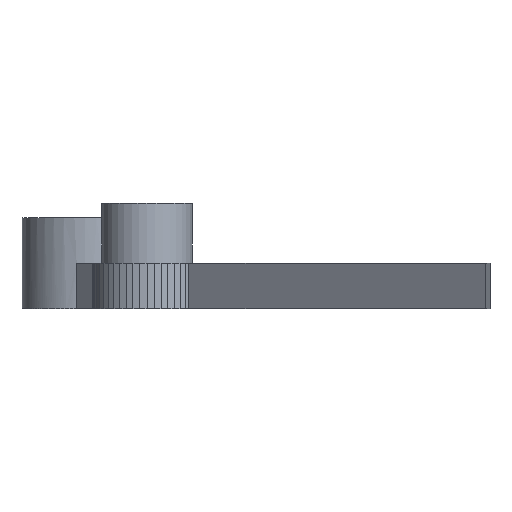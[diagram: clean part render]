
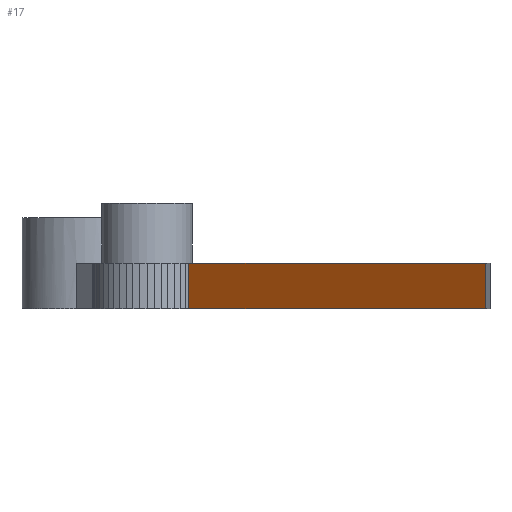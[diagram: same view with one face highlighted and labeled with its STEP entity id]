
A CAD part, left-side view. The second image highlights one B-rep face of the part: STEP entity #17.
In plain terms, the highlighted planar face has unit normal (-0.771, 0.637, 0).
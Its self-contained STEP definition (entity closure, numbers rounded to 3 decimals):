
#17 = ADVANCED_FACE('',(#18),#32,.T.);
#18 = FACE_BOUND('',#19,.T.);
#19 = EDGE_LOOP('',(#20,#55,#83,#111));
#20 = ORIENTED_EDGE('',*,*,#21,.T.);
#21 = EDGE_CURVE('',#22,#24,#26,.T.);
#22 = VERTEX_POINT('',#23);
#23 = CARTESIAN_POINT('',(-43.699,-25.351,0.));
#24 = VERTEX_POINT('',#25);
#25 = CARTESIAN_POINT('',(-43.699,-25.351,5.));
#26 = SURFACE_CURVE('',#27,(#31,#43),.PCURVE_S1.);
#27 = LINE('',#28,#29);
#28 = CARTESIAN_POINT('',(-43.699,-25.351,0.));
#29 = VECTOR('',#30,1.);
#30 = DIRECTION('',(0.,0.,1.));
#31 = PCURVE('',#32,#37);
#32 = PLANE('',#33);
#33 = AXIS2_PLACEMENT_3D('',#34,#35,#36);
#34 = CARTESIAN_POINT('',(-43.699,-25.351,0.));
#35 = DIRECTION('',(-0.771,0.637,0.));
#36 = DIRECTION('',(0.637,0.771,0.));
#37 = DEFINITIONAL_REPRESENTATION('',(#38),#42);
#38 = LINE('',#39,#40);
#39 = CARTESIAN_POINT('',(0.,0.));
#40 = VECTOR('',#41,1.);
#41 = DIRECTION('',(0.,-1.));
#42 = ( GEOMETRIC_REPRESENTATION_CONTEXT(2) 
PARAMETRIC_REPRESENTATION_CONTEXT() REPRESENTATION_CONTEXT('2D SPACE',''
  ) );
#43 = PCURVE('',#44,#49);
#44 = PLANE('',#45);
#45 = AXIS2_PLACEMENT_3D('',#46,#47,#48);
#46 = CARTESIAN_POINT('',(-37.614,-25.835,0.));
#47 = DIRECTION('',(-0.079,-0.997,0.));
#48 = DIRECTION('',(-0.997,0.079,0.));
#49 = DEFINITIONAL_REPRESENTATION('',(#50),#54);
#50 = LINE('',#51,#52);
#51 = CARTESIAN_POINT('',(6.104,0.));
#52 = VECTOR('',#53,1.);
#53 = DIRECTION('',(0.,-1.));
#54 = ( GEOMETRIC_REPRESENTATION_CONTEXT(2) 
PARAMETRIC_REPRESENTATION_CONTEXT() REPRESENTATION_CONTEXT('2D SPACE',''
  ) );
#55 = ORIENTED_EDGE('',*,*,#56,.T.);
#56 = EDGE_CURVE('',#24,#57,#59,.T.);
#57 = VERTEX_POINT('',#58);
#58 = CARTESIAN_POINT('',(-16.65,7.413,5.));
#59 = SURFACE_CURVE('',#60,(#64,#71),.PCURVE_S1.);
#60 = LINE('',#61,#62);
#61 = CARTESIAN_POINT('',(-43.699,-25.351,5.));
#62 = VECTOR('',#63,1.);
#63 = DIRECTION('',(0.637,0.771,0.));
#64 = PCURVE('',#32,#65);
#65 = DEFINITIONAL_REPRESENTATION('',(#66),#70);
#66 = LINE('',#67,#68);
#67 = CARTESIAN_POINT('',(0.,-5.));
#68 = VECTOR('',#69,1.);
#69 = DIRECTION('',(1.,0.));
#70 = ( GEOMETRIC_REPRESENTATION_CONTEXT(2) 
PARAMETRIC_REPRESENTATION_CONTEXT() REPRESENTATION_CONTEXT('2D SPACE',''
  ) );
#71 = PCURVE('',#72,#77);
#72 = PLANE('',#73);
#73 = AXIS2_PLACEMENT_3D('',#74,#75,#76);
#74 = CARTESIAN_POINT('',(-2.412,5.721,5.));
#75 = DIRECTION('',(-0.,-0.,-1.));
#76 = DIRECTION('',(-1.,0.,0.));
#77 = DEFINITIONAL_REPRESENTATION('',(#78),#82);
#78 = LINE('',#79,#80);
#79 = CARTESIAN_POINT('',(41.287,-31.072));
#80 = VECTOR('',#81,1.);
#81 = DIRECTION('',(-0.637,0.771));
#82 = ( GEOMETRIC_REPRESENTATION_CONTEXT(2) 
PARAMETRIC_REPRESENTATION_CONTEXT() REPRESENTATION_CONTEXT('2D SPACE',''
  ) );
#83 = ORIENTED_EDGE('',*,*,#84,.F.);
#84 = EDGE_CURVE('',#85,#57,#87,.T.);
#85 = VERTEX_POINT('',#86);
#86 = CARTESIAN_POINT('',(-16.65,7.413,0.));
#87 = SURFACE_CURVE('',#88,(#92,#99),.PCURVE_S1.);
#88 = LINE('',#89,#90);
#89 = CARTESIAN_POINT('',(-16.65,7.413,0.));
#90 = VECTOR('',#91,1.);
#91 = DIRECTION('',(0.,0.,1.));
#92 = PCURVE('',#32,#93);
#93 = DEFINITIONAL_REPRESENTATION('',(#94),#98);
#94 = LINE('',#95,#96);
#95 = CARTESIAN_POINT('',(42.487,0.));
#96 = VECTOR('',#97,1.);
#97 = DIRECTION('',(0.,-1.));
#98 = ( GEOMETRIC_REPRESENTATION_CONTEXT(2) 
PARAMETRIC_REPRESENTATION_CONTEXT() REPRESENTATION_CONTEXT('2D SPACE',''
  ) );
#99 = PCURVE('',#100,#105);
#100 = PLANE('',#101);
#101 = AXIS2_PLACEMENT_3D('',#102,#103,#104);
#102 = CARTESIAN_POINT('',(-16.65,7.413,0.));
#103 = DIRECTION('',(-0.659,-0.752,0.));
#104 = DIRECTION('',(-0.752,0.659,0.));
#105 = DEFINITIONAL_REPRESENTATION('',(#106),#110);
#106 = LINE('',#107,#108);
#107 = CARTESIAN_POINT('',(0.,0.));
#108 = VECTOR('',#109,1.);
#109 = DIRECTION('',(0.,-1.));
#110 = ( GEOMETRIC_REPRESENTATION_CONTEXT(2) 
PARAMETRIC_REPRESENTATION_CONTEXT() REPRESENTATION_CONTEXT('2D SPACE',''
  ) );
#111 = ORIENTED_EDGE('',*,*,#112,.F.);
#112 = EDGE_CURVE('',#22,#85,#113,.T.);
#113 = SURFACE_CURVE('',#114,(#118,#125),.PCURVE_S1.);
#114 = LINE('',#115,#116);
#115 = CARTESIAN_POINT('',(-43.699,-25.351,0.));
#116 = VECTOR('',#117,1.);
#117 = DIRECTION('',(0.637,0.771,0.));
#118 = PCURVE('',#32,#119);
#119 = DEFINITIONAL_REPRESENTATION('',(#120),#124);
#120 = LINE('',#121,#122);
#121 = CARTESIAN_POINT('',(0.,0.));
#122 = VECTOR('',#123,1.);
#123 = DIRECTION('',(1.,0.));
#124 = ( GEOMETRIC_REPRESENTATION_CONTEXT(2) 
PARAMETRIC_REPRESENTATION_CONTEXT() REPRESENTATION_CONTEXT('2D SPACE',''
  ) );
#125 = PCURVE('',#126,#131);
#126 = PLANE('',#127);
#127 = AXIS2_PLACEMENT_3D('',#128,#129,#130);
#128 = CARTESIAN_POINT('',(-2.412,5.721,
    0.));
#129 = DIRECTION('',(-0.,-0.,-1.));
#130 = DIRECTION('',(-1.,0.,0.));
#131 = DEFINITIONAL_REPRESENTATION('',(#132),#136);
#132 = LINE('',#133,#134);
#133 = CARTESIAN_POINT('',(41.287,-31.072));
#134 = VECTOR('',#135,1.);
#135 = DIRECTION('',(-0.637,0.771));
#136 = ( GEOMETRIC_REPRESENTATION_CONTEXT(2) 
PARAMETRIC_REPRESENTATION_CONTEXT() REPRESENTATION_CONTEXT('2D SPACE',''
  ) );
